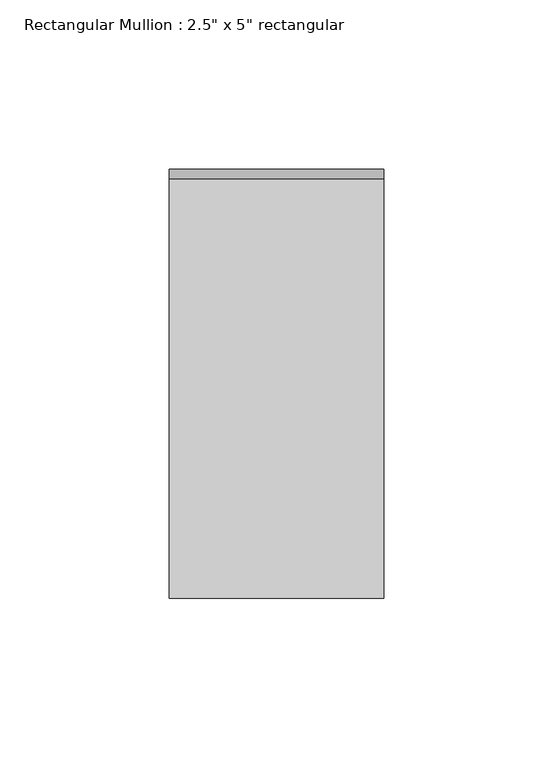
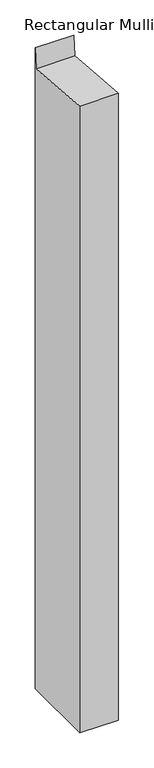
"""IFC4 building model written with IfcOpenShell, lengths in millimetres: member geometry."""

from ifc_helpers import new_model, si_unit, frame, origin, place, context, project, spatial, polyline, outline, extrude, source, transform, mapped, element, save


def member_252506b7(model_context):
    return source(origin(), model_context, "Body", "SweptSolid", [
        extrude(outline(polyline([(-63.5, 5.152946), (60.6612211, -5.1353461), (63.5, 29.1236206), (63.5, -1083.8158365), (-63.5, -1083.8158365), (-63.5, 5.152946)])), frame((-63.5, 0.0, 0.0), z_axis=(1.0, 0.0, 0.0), x_axis=(0.0, 1.0, 0.0)), (0.0, 0.0, 1.0), 63.5),
    ])


if __name__ == "__main__":
    model = new_model("IFC4")
    model_context = context("Model", 3, world=origin())
    ifc_project = project(units=[si_unit("LENGTHUNIT", "METRE", prefix="MILLI")], contexts=[model_context])
    site = spatial("IfcSite", under=ifc_project)
    building = spatial("IfcBuilding", under=site)
    placement = place(None, origin())
    member_shape = member_252506b7(model_context)
    element("IfcMember", 1, ObjectType="Rectangular Mullion : 2.5\" x 5\" rectangular", at=placement, inside=building, context=model_context, shape_type="MappedRepresentation", body=[
        mapped(member_shape, transform((0.0, 0.0, 0.0), x_axis=(1.0, 0.0, 0.0), y_axis=(0.0, 1.0, 0.0), z_axis=(0.0, 0.0, 1.0))),
    ])
    save(model, "model.ifc")
